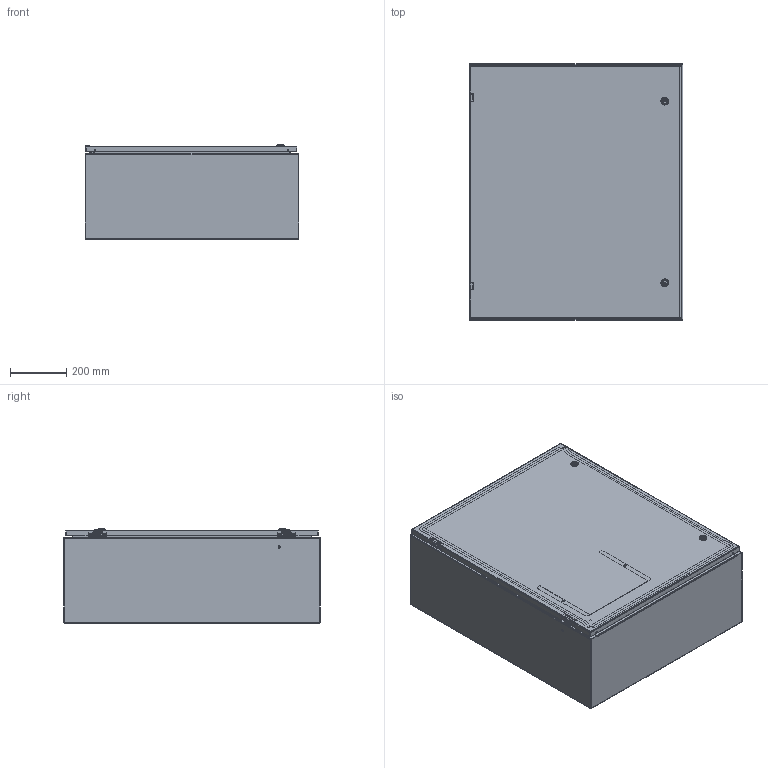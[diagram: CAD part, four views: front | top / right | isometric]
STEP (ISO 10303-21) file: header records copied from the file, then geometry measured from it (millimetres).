
FILE_DESCRIPTION((''),'2;1');
FILE_NAME('MODEL-305_ASM','2025-02-19T16:09:21',('joshi'),('SAGINAW CONTROL & ENGINEERING'),'CREO PARAMETRIC BY PTC INC, 2021284','CREO PARAMETRIC BY PTC INC, 2021284','');
FILE_SCHEMA(('AUTOMOTIVE_DESIGN { 1 0 10303 214 1 1 1 1 }'));
Length unit declared in the file: inch
Products named in the file (29): MODEL-305-BDY; MODEL-305-TP; MODEL-305-BTM; MODEL-305-DR; 100837; 100882; 111267; 100794_SHAFT; 100794_INSERT; 100794_CAM; 100794_NUT; 100794_SCREW; 100794_ASM; MODEL-305-DOOR-GASKET; 126391; 126391_ASM; 126393; 102483; 101226; 101376; 102140; 132757; MODEL-305-DOOR-ASSY_ASM; 101653; 122192; SUBPANEL; 100904; SUBPANEL-SUBASSEMBLY_ASM; MODEL-305_ASM
Assembly tree (54 placements, depth 4):
  MODEL-305_ASM
    MODEL-305-BDY
    MODEL-305-TP
    MODEL-305-BTM
    MODEL-305-DOOR-ASSY_ASM
      MODEL-305-DR
      100837  x3
      100882  x2
      111267
      100794_ASM  x2
        100794_SHAFT
        100794_INSERT
        100794_CAM
        100794_NUT
        100794_SCREW
      MODEL-305-DOOR-GASKET
      126391_ASM  x2
        126391
      126393  x2
      102483  x6
      101226  x2
      101376  x2
      102140  x2
      132757  x2
    100837
    101653  x6
    122192
    SUBPANEL-SUBASSEMBLY_ASM
      SUBPANEL
      100904  x6
Bounding box: 762 x 914.4 x 335.93 mm (x, y, z)
Volume: 7610451.5 mm3; surface area: 6872463.9 mm2
Topology: 55 solids, 55 shells, 3211 faces, 8076 edges, 5050 vertices
Faces by surface type: plane 1392, cylinder 885, bspline 472, torus 258, cone 132, sphere 72
Entity records: 85965 total; most frequent: CARTESIAN_POINT 24755, ORIENTED_EDGE 8824, DIRECTION 8360, PRESENTATION_STYLE_ASSIGNMENT 4610, EDGE_CURVE 4412, STYLED_ITEM 4335, CURVE_STYLE 4250, AXIS2_PLACEMENT_3D 3064
